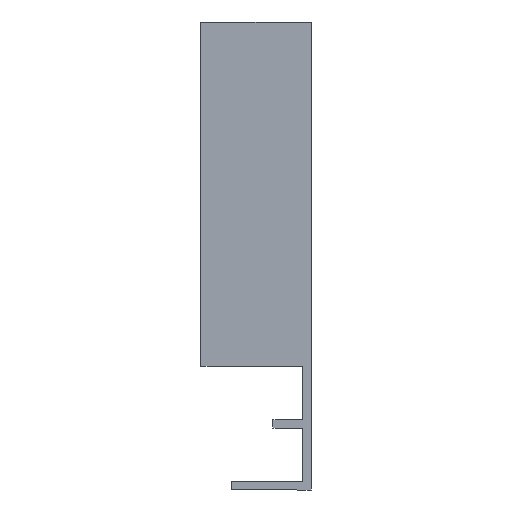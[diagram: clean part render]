
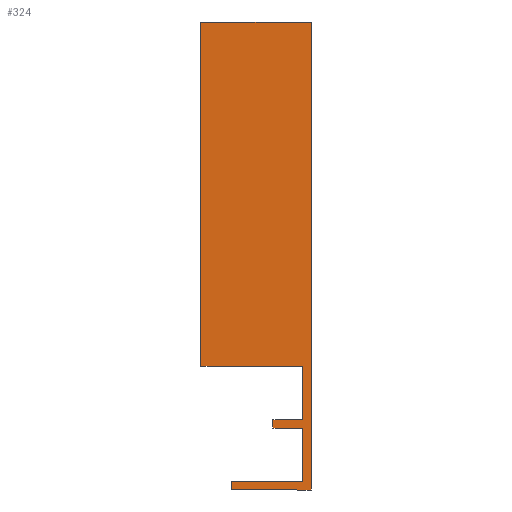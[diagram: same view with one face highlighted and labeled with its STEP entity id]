
A CAD part, left-side view. The second image highlights one B-rep face of the part: STEP entity #324.
In plain terms, the highlighted planar face has unit normal (-1, 0, 0).
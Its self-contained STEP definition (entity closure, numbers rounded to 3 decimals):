
#1 = CARTESIAN_POINT ( 'NONE',  ( -211.5, 6., -17.9 ) ) ;
#2 = CARTESIAN_POINT ( 'NONE',  ( -211.5, 6., -16.7 ) ) ;
#3 = CARTESIAN_POINT ( 'NONE',  ( -211.5, -5.5, -17.9 ) ) ;
#6 = DIRECTION ( 'NONE',  ( 0., 0., 1. ) ) ;
#12 = CARTESIAN_POINT ( 'NONE',  ( -211.5, -4.3, -8.95 ) ) ;
#14 = VERTEX_POINT ( 'NONE', #1 ) ;
#18 = VERTEX_POINT ( 'NONE', #12 ) ;
#19 = VERTEX_POINT ( 'NONE', #42 ) ;
#21 = VERTEX_POINT ( 'NONE', #44 ) ;
#23 = VERTEX_POINT ( 'NONE', #46 ) ;
#24 = VERTEX_POINT ( 'NONE', #47 ) ;
#26 = VERTEX_POINT ( 'NONE', #49 ) ;
#28 = VERTEX_POINT ( 'NONE', #51 ) ;
#31 = VERTEX_POINT ( 'NONE', #54 ) ;
#35 = VERTEX_POINT ( 'NONE', #58 ) ;
#36 = VERTEX_POINT ( 'NONE', #65 ) ;
#37 = VERTEX_POINT ( 'NONE', #66 ) ;
#42 = CARTESIAN_POINT ( 'NONE',  ( -211.5, 0., -8.95 ) ) ;
#44 = CARTESIAN_POINT ( 'NONE',  ( -211.5, 0., -7.75 ) ) ;
#46 = CARTESIAN_POINT ( 'NONE',  ( -211.5, 10.4, 0. ) ) ;
#47 = CARTESIAN_POINT ( 'NONE',  ( -211.5, -4.3, -7.75 ) ) ;
#49 = CARTESIAN_POINT ( 'NONE',  ( -211.5, -4.3, 0. ) ) ;
#51 = CARTESIAN_POINT ( 'NONE',  ( -211.5, -5.5, 49.7 ) ) ;
#54 = CARTESIAN_POINT ( 'NONE',  ( -211.5, 10.4, 49.7 ) ) ;
#58 = CARTESIAN_POINT ( 'NONE',  ( -211.5, -5.5, -17.9 ) ) ;
#62 = DIRECTION ( 'NONE',  ( 0., 0., -1. ) ) ;
#65 = CARTESIAN_POINT ( 'NONE',  ( -211.5, 6., -16.7 ) ) ;
#66 = CARTESIAN_POINT ( 'NONE',  ( -211.5, -4.3, -16.7 ) ) ;
#70 = CARTESIAN_POINT ( 'NONE',  ( -211.5, 6., -17.9 ) ) ;
#73 = DIRECTION ( 'NONE',  ( 0., -1., 0. ) ) ;
#82 = CARTESIAN_POINT ( 'NONE',  ( -211.5, 10.4, 49.7 ) ) ;
#84 = CARTESIAN_POINT ( 'NONE',  ( -211.5, -4.3, -7.75 ) ) ;
#85 = DIRECTION ( 'NONE',  ( 0., 1., 0. ) ) ;
#89 = DIRECTION ( 'NONE',  ( 0., 0., -1. ) ) ;
#92 = CARTESIAN_POINT ( 'NONE',  ( -211.5, 0., -7.75 ) ) ;
#93 = DIRECTION ( 'NONE',  ( 0., 0., -1. ) ) ;
#100 = CARTESIAN_POINT ( 'NONE',  ( -211.5, 10.4, 0. ) ) ;
#103 = DIRECTION ( 'NONE',  ( 0., -1., 0. ) ) ;
#104 = CARTESIAN_POINT ( 'NONE',  ( -211.5, 0., -8.95 ) ) ;
#105 = DIRECTION ( 'NONE',  ( 0., -1., 0. ) ) ;
#110 = CARTESIAN_POINT ( 'NONE',  ( -211.5, -4.3, -8.95 ) ) ;
#111 = DIRECTION ( 'NONE',  ( 0., 0., -1. ) ) ;
#125 = CARTESIAN_POINT ( 'NONE',  ( -211.5, -4.3, -16.7 ) ) ;
#126 = DIRECTION ( 'NONE',  ( 0., 1., 0. ) ) ;
#129 = CARTESIAN_POINT ( 'NONE',  ( -211.5, -5.5, 49.7 ) ) ;
#133 = DIRECTION ( 'NONE',  ( 0., 1., 0. ) ) ;
#136 = CARTESIAN_POINT ( 'NONE',  ( -211.5, -4.3, 0. ) ) ;
#137 = DIRECTION ( 'NONE',  ( 0., 0., -1. ) ) ;
#192 = PLANE ( 'NONE',  #297 ) ;
#195 = CARTESIAN_POINT ( 'NONE',  ( -211.5, 6., -16.7 ) ) ;
#201 = DIRECTION ( 'NONE',  ( -1., 0., 0. ) ) ;
#202 = DIRECTION ( 'NONE',  ( 0., -1., 0. ) ) ;
#240 = EDGE_CURVE ( 'NONE', #35, #28, #355, .T. ) ;
#241 = EDGE_CURVE ( 'NONE', #36, #14, #362, .T. ) ;
#245 = EDGE_CURVE ( 'NONE', #14, #35, #352, .T. ) ;
#251 = EDGE_CURVE ( 'NONE', #24, #21, #335, .T. ) ;
#253 = EDGE_CURVE ( 'NONE', #31, #23, #342, .T. ) ;
#255 = EDGE_CURVE ( 'NONE', #21, #19, #487, .T. ) ;
#260 = EDGE_CURVE ( 'NONE', #23, #26, #490, .T. ) ;
#261 = EDGE_CURVE ( 'NONE', #19, #18, #473, .T. ) ;
#264 = EDGE_CURVE ( 'NONE', #18, #37, #468, .T. ) ;
#271 = EDGE_CURVE ( 'NONE', #37, #36, #499, .T. ) ;
#274 = EDGE_CURVE ( 'NONE', #28, #31, #495, .T. ) ;
#276 = EDGE_CURVE ( 'NONE', #26, #24, #509, .T. ) ;
#297 = AXIS2_PLACEMENT_3D ( 'NONE', #195, #201, #202 ) ;
#324 = ADVANCED_FACE ( 'NONE', ( #532 ), #192, .T. ) ;
#334 = VECTOR ( 'NONE', #85, 1000. ) ;
#335 = LINE ( 'NONE', #84, #334 ) ;
#342 = LINE ( 'NONE', #82, #491 ) ;
#347 = VECTOR ( 'NONE', #73, 1000. ) ;
#352 = LINE ( 'NONE', #70, #347 ) ;
#354 = VECTOR ( 'NONE', #62, 1000. ) ;
#355 = LINE ( 'NONE', #3, #356 ) ;
#356 = VECTOR ( 'NONE', #6, 1000. ) ;
#362 = LINE ( 'NONE', #2, #354 ) ;
#363 = ORIENTED_EDGE ( 'NONE', *, *, #264, .T. ) ;
#367 = ORIENTED_EDGE ( 'NONE', *, *, #261, .T. ) ;
#368 = ORIENTED_EDGE ( 'NONE', *, *, #255, .T. ) ;
#369 = ORIENTED_EDGE ( 'NONE', *, *, #251, .T. ) ;
#370 = ORIENTED_EDGE ( 'NONE', *, *, #276, .T. ) ;
#371 = ORIENTED_EDGE ( 'NONE', *, *, #260, .T. ) ;
#372 = ORIENTED_EDGE ( 'NONE', *, *, #253, .T. ) ;
#373 = ORIENTED_EDGE ( 'NONE', *, *, #274, .T. ) ;
#374 = ORIENTED_EDGE ( 'NONE', *, *, #240, .T. ) ;
#448 = EDGE_LOOP ( 'NONE', ( #458, #457, #456, #374, #373, #372, #371, #370, #369, #368, #367, #363 ) ) ;
#456 = ORIENTED_EDGE ( 'NONE', *, *, #245, .T. ) ;
#457 = ORIENTED_EDGE ( 'NONE', *, *, #241, .T. ) ;
#458 = ORIENTED_EDGE ( 'NONE', *, *, #271, .T. ) ;
#467 = VECTOR ( 'NONE', #111, 1000. ) ;
#468 = LINE ( 'NONE', #110, #467 ) ;
#473 = LINE ( 'NONE', #104, #476 ) ;
#476 = VECTOR ( 'NONE', #105, 1000. ) ;
#477 = VECTOR ( 'NONE', #103, 1000. ) ;
#486 = VECTOR ( 'NONE', #93, 1000. ) ;
#487 = LINE ( 'NONE', #92, #486 ) ;
#490 = LINE ( 'NONE', #100, #477 ) ;
#491 = VECTOR ( 'NONE', #89, 1000. ) ;
#495 = LINE ( 'NONE', #129, #505 ) ;
#499 = LINE ( 'NONE', #125, #500 ) ;
#500 = VECTOR ( 'NONE', #126, 1000. ) ;
#505 = VECTOR ( 'NONE', #133, 1000. ) ;
#509 = LINE ( 'NONE', #136, #510 ) ;
#510 = VECTOR ( 'NONE', #137, 1000. ) ;
#532 = FACE_OUTER_BOUND ( 'NONE', #448, .T. ) ;
